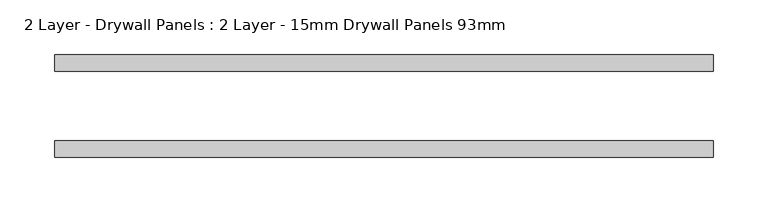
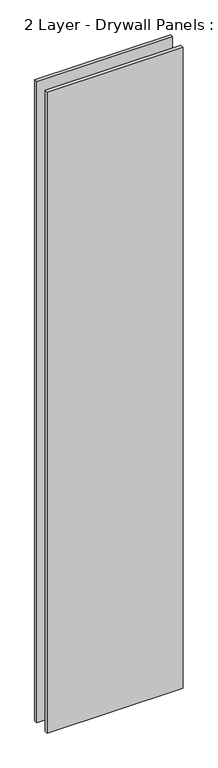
"""IFC4 building model written with IfcOpenShell, lengths in millimetres: plate geometry, 2 Layer - Drywall Panels : 2 Layer - 15mm Drywall Panels 93mm."""

from ifc_helpers import new_model, si_unit, origin, origin_with_axes, place, context, project, spatial, polyline, outline, extrude, source, transform, mapped, element, save


def plate_2_layer_drywall_panels_2_layer_15mm_drywall_panels_7b1b0b35(model_context):
    return source(origin(), model_context, "Body", "SweptSolid", [
        extrude(outline(polyline([(299.2000002, 31.5), (-299.2000002, 31.5), (-299.2000002, 46.5), (299.2000002, 46.5), (299.2000002, 31.5)])), origin_with_axes(), (0.0, 0.0, 1.0), 2979.4),
        extrude(outline(polyline([(299.2000002, -31.5), (299.2000002, -46.5), (-299.2000002, -46.5), (-299.2000002, -31.5), (299.2000002, -31.5)])), origin_with_axes(), (0.0, 0.0, 1.0), 2979.4),
    ])


if __name__ == "__main__":
    model = new_model("IFC4")
    model_context = context("Model", 3, world=origin())
    ifc_project = project(units=[si_unit("LENGTHUNIT", "METRE", prefix="MILLI")], contexts=[model_context])
    site = spatial("IfcSite", under=ifc_project)
    building = spatial("IfcBuilding", under=site)
    placement = place(None, origin())
    plate_2_layer_drywall_panels_2_layer_15mm_drywall_panels_shape = plate_2_layer_drywall_panels_2_layer_15mm_drywall_panels_7b1b0b35(model_context)
    element("IfcPlate", 1, ObjectType="2 Layer - Drywall Panels : 2 Layer - 15mm Drywall Panels 93mm", at=placement, inside=building, context=model_context, shape_type="MappedRepresentation", body=[
        mapped(plate_2_layer_drywall_panels_2_layer_15mm_drywall_panels_shape, transform((0.0, 0.0, 0.0), x_axis=(1.0, 0.0, 0.0), y_axis=(0.0, 1.0, 0.0), z_axis=(0.0, 0.0, 1.0))),
    ])
    save(model, "model.ifc")
